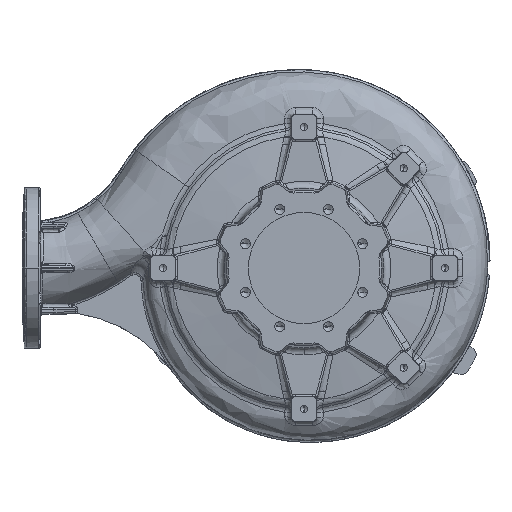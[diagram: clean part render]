
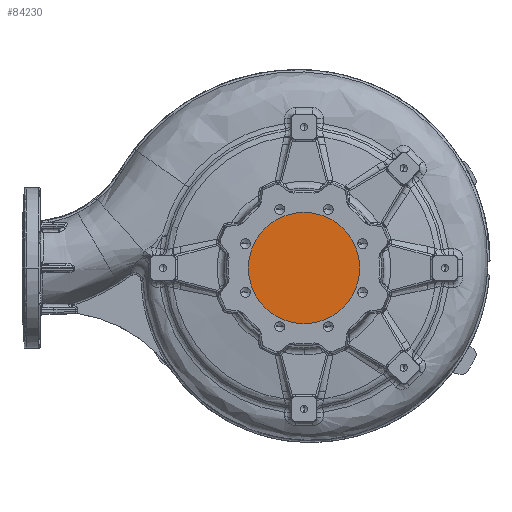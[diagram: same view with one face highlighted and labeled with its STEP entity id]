
A CAD part, front view. The second image highlights one B-rep face of the part: STEP entity #84230.
In plain terms, the highlighted planar face has unit normal (0, -1, 0).
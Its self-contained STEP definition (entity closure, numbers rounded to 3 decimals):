
#5686 = CIRCLE ( 'NONE', #27776, 79. ) ;
#10074 = VERTEX_POINT ( 'NONE', #83310 ) ;
#13575 = DIRECTION ( 'NONE',  ( 0., -1., 0. ) ) ;
#26126 = DIRECTION ( 'NONE',  ( 0., -1., 0. ) ) ;
#27776 = AXIS2_PLACEMENT_3D ( 'NONE', #85317, #13575, #97393 ) ;
#28880 = DIRECTION ( 'NONE',  ( 0., -1., 0. ) ) ;
#47853 = ORIENTED_EDGE ( 'NONE', *, *, #63864, .T. ) ;
#47859 = AXIS2_PLACEMENT_3D ( 'NONE', #100606, #28880, #112651 ) ;
#52479 = PLANE ( 'NONE',  #47859 ) ;
#52785 = ORIENTED_EDGE ( 'NONE', *, *, #122844, .T. ) ;
#63864 = EDGE_CURVE ( 'NONE', #10074, #106155, #120841, .T. ) ;
#67558 = AXIS2_PLACEMENT_3D ( 'NONE', #97861, #26126, #109876 ) ;
#83310 = CARTESIAN_POINT ( 'NONE',  ( 79., -539.5, 0. ) ) ;
#84230 = ADVANCED_FACE ( 'NONE', ( #103579 ), #52479, .T. ) ;
#85317 = CARTESIAN_POINT ( 'NONE',  ( 0., -539.5, 0. ) ) ;
#97393 = DIRECTION ( 'NONE',  ( 1., 0., 0. ) ) ;
#97861 = CARTESIAN_POINT ( 'NONE',  ( 0., -539.5, 0. ) ) ;
#98788 = EDGE_LOOP ( 'NONE', ( #47853, #52785 ) ) ;
#100606 = CARTESIAN_POINT ( 'NONE',  ( 0., -539.5, 0. ) ) ;
#103579 = FACE_OUTER_BOUND ( 'NONE', #98788, .T. ) ;
#106155 = VERTEX_POINT ( 'NONE', #110357 ) ;
#109876 = DIRECTION ( 'NONE',  ( 1., 0., 0. ) ) ;
#110357 = CARTESIAN_POINT ( 'NONE',  ( -79., -539.5, 0. ) ) ;
#112651 = DIRECTION ( 'NONE',  ( 1., 0., 0. ) ) ;
#120841 = CIRCLE ( 'NONE', #67558, 79. ) ;
#122844 = EDGE_CURVE ( 'NONE', #106155, #10074, #5686, .T. ) ;
